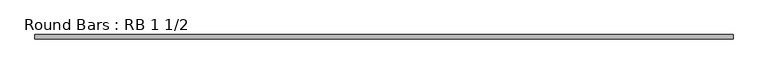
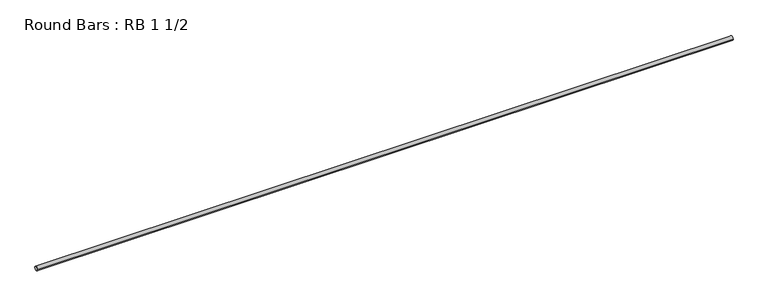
"""IFC4 building model written with IfcOpenShell, lengths in millimetres: member geometry, Round Bars : RB 1 1/2."""

from ifc_helpers import new_model, si_unit, point, frame, origin, origin_2d, place, context, project, spatial, circle_curve, trimmed, segment, composite_curve, outline, extrude, source, transform, mapped, element, save


def round_bars_rb_1_1_2_217ab45a(model_context):
    return source(origin(), model_context, "Body", "SweptSolid", [
        extrude(outline(composite_curve([segment(trimmed(circle_curve(origin_2d(), 19.05), [point((19.05, 0.0))], [point((-19.05, 0.0))], False, "CARTESIAN"), True, "CONTINUOUS"), segment(trimmed(circle_curve(origin_2d(), 19.05), [point((-19.05, 0.0))], [point((19.05, 0.0))], False, "CARTESIAN"), True, "CONTINUOUS")], self_intersect=False)), frame((-3143.6315886, 0.0, 0.0), z_axis=(1.0, 0.0, 0.0), x_axis=(0.0, 1.0, 0.0)), (0.0, 0.0, 1.0), 6287.2537121),
    ])


if __name__ == "__main__":
    model = new_model("IFC4")
    model_context = context("Model", 3, world=origin())
    ifc_project = project(units=[si_unit("LENGTHUNIT", "METRE", prefix="MILLI")], contexts=[model_context])
    site = spatial("IfcSite", under=ifc_project)
    building = spatial("IfcBuilding", under=site)
    placement = place(None, origin())
    round_bars_rb_1_1_2_shape = round_bars_rb_1_1_2_217ab45a(model_context)
    element("IfcMember", 1, ObjectType="Round Bars : RB 1 1/2", at=placement, inside=building, context=model_context, shape_type="MappedRepresentation", body=[
        mapped(round_bars_rb_1_1_2_shape, transform((0.0, 0.0, 0.0), x_axis=(1.0, 0.0, 0.0), y_axis=(0.0, 1.0, 0.0), z_axis=(0.0, 0.0, 1.0))),
    ])
    save(model, "model.ifc")
